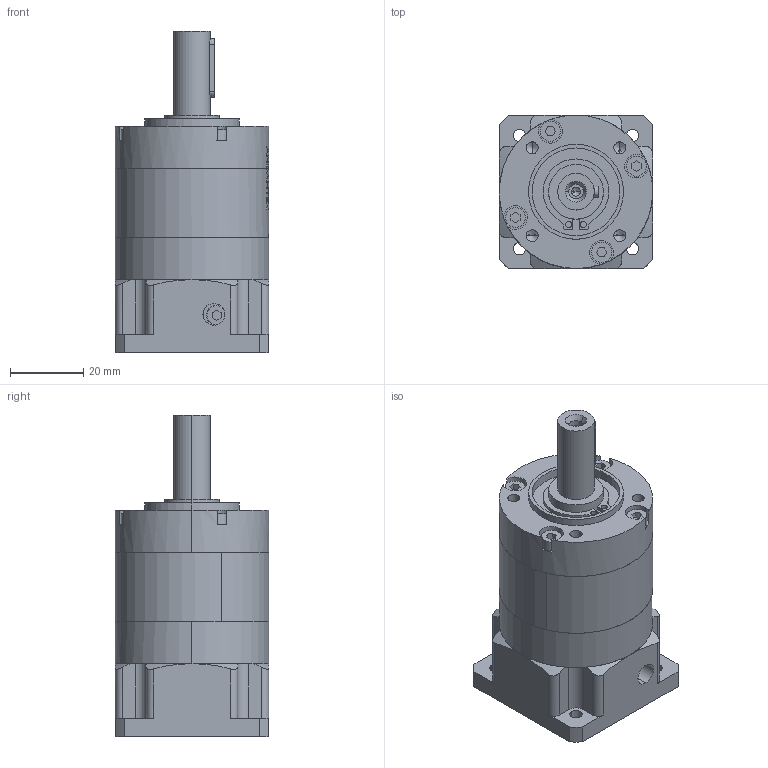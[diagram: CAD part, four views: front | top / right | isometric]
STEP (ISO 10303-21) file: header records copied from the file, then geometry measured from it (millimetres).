
FILE_DESCRIPTION (( 'STEP AP203' ), '1' );
FILE_NAME ('PLE040-L1-5-22-43.8.STEP', '2022-07-01T02:28:05', ( 'Windows User' ), ( 'P R C' ), 'SwSTEP 2.0', 'SolidWorks 2016', '' );
FILE_SCHEMA (( 'CONFIG_CONTROL_DESIGN' ));
Length unit declared in the file: millimetre
Products named in the file (8): 邧埴瑩 3x3x16; GB／T70．1-2000内六角圆柱头螺钉M3×12; GB／T276-94深沟球轴承61902-2RZ; PLE040 蟀諉啣 22-3.4-43.8_1; PLE040-L1-5-22-43.8; PLE040 奻屳唳_D1-70 D2-5.5 D3-14 D4-17 D5-50 L1-30 L2-35 L3-3 A1-60 S1-3 S2-20 S3-5 S4-18 B-5 H-16 C-M5 梓袧; PLE040 κｳﾝﾈｦ_ﾒｻｼｶﾄﾚｳﾝﾈｦ; PLE040 狟裔_D6-60 D7-14 梓袧
Assembly tree (7 placements, depth 2):
  PLE040-L1-5-22-43.8
    PLE040 奻屳唳_D1-70 D2-5.5 D3-14 D4-17 D5-50 L1-30 L2-35 L3-3 A1-60 S1-3 S2-20 S3-5 S4-18 B-5 H-16 C-M5 梓袧
    PLE040 κｳﾝﾈｦ_ﾒｻｼｶﾄﾚｳﾝﾈｦ
    PLE040 狟裔_D6-60 D7-14 梓袧
    邧埴瑩 3x3x16
    GB／T70．1-2000内六角圆柱头螺钉M3×12
    GB／T276-94深沟球轴承61902-2RZ
    PLE040 蟀諉啣 22-3.4-43.8_1
Bounding box: 42 x 42 x 88 mm (x, y, z)
Volume: 79420.2 mm3; surface area: 37504.9 mm2
Topology: 11 solids, 15 shells, 1105 faces, 3042 edges, 2016 vertices
Faces by surface type: plane 572, cylinder 204, bspline 187, sphere 78, torus 50, cone 14
Entity records: 45468 total; most frequent: CARTESIAN_POINT 17838, ORIENTED_EDGE 6004, DIRECTION 4901, EDGE_CURVE 3002, VERTEX_POINT 1996, AXIS2_PLACEMENT_3D 1697, VECTOR 1507, LINE 1507
